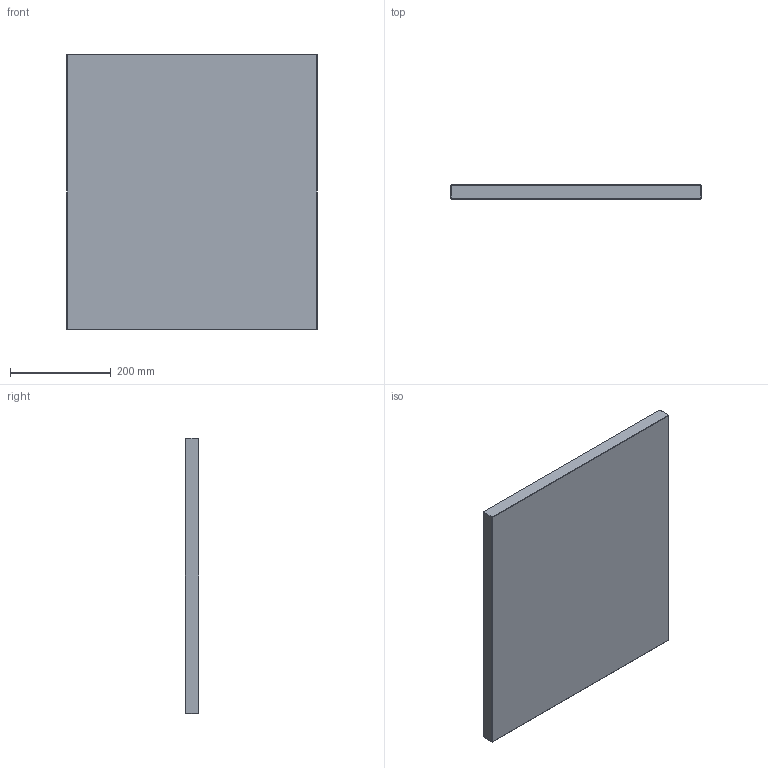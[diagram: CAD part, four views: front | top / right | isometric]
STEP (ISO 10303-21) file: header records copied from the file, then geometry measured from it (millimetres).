
FILE_DESCRIPTION (( 'STEP AP214' ), '1' );
FILE_NAME ('CPE-P-496x546x27.STEP', '2020-04-07T09:28:38', ( 'August' ), ( '' ), 'SwSTEP 2.0', 'SolidWorks 2018', '' );
FILE_SCHEMA (( 'AUTOMOTIVE_DESIGN' ));
Length unit declared in the file: millimetre
Products named in the file (1): CPE-P-496x546x27
Bounding box: 496 x 27 x 546 mm (x, y, z)
Volume: 7309899.3 mm3; surface area: 595392.2 mm2
Topology: 1 solids, 1 shells, 26 faces, 48 edges, 24 vertices
Faces by surface type: plane 26
Entity records: 634 total; most frequent: DIRECTION 102, CARTESIAN_POINT 99, ORIENTED_EDGE 96, VECTOR 48, LINE 48, EDGE_CURVE 48, AXIS2_PLACEMENT_3D 27, EDGE_LOOP 26
